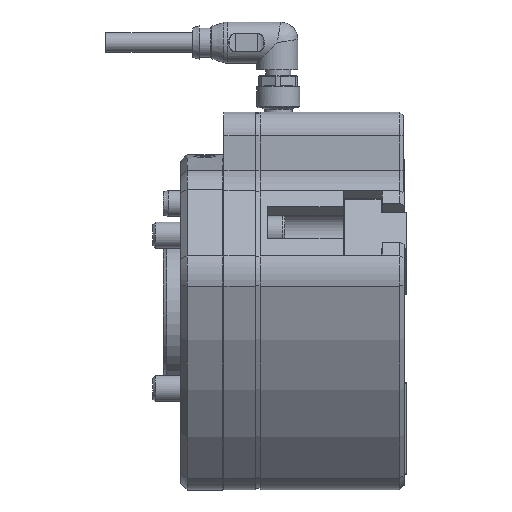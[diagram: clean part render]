
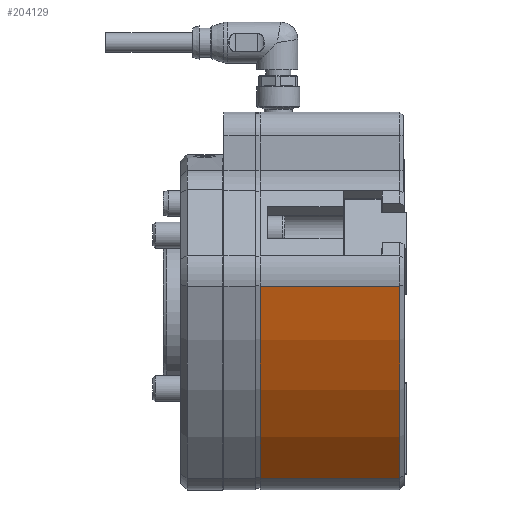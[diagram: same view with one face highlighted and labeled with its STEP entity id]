
A CAD part, top view. The second image highlights one B-rep face of the part: STEP entity #204129.
In plain terms, the highlighted cylindrical face has radius 90 mm (diameter 180 mm), a partial arc.
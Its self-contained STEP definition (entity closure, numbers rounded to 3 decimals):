
#203713=CARTESIAN_POINT('',(15.371,38.391,8.35));
#203714=VERTEX_POINT('',#203713);
#203722=CARTESIAN_POINT('',(40.933,-5.884,8.35));
#203723=VERTEX_POINT('',#203722);
#203724=CARTESIAN_POINT('',(-46.58,-26.893,8.35));
#203725=DIRECTION('',(0.0,0.0,1.0));
#203726=DIRECTION('',(-0.982,-0.191,0.0));
#203727=AXIS2_PLACEMENT_3D('',#203724,#203725,#203726);
#203728=CIRCLE('',#203727,90.0);
#203729=EDGE_CURVE('',#203723,#203714,#203728,.T.);
#204061=CARTESIAN_POINT('',(40.933,-5.884,40.5));
#204062=VERTEX_POINT('',#204061);
#204063=CARTESIAN_POINT('',(40.933,-5.884,8.35));
#204064=DIRECTION('',(0.0,0.0,1.0));
#204065=VECTOR('',#204064,32.15);
#204066=LINE('',#204063,#204065);
#204067=EDGE_CURVE('',#203723,#204062,#204066,.T.);
#204105=CARTESIAN_POINT('',(-46.58,-26.893,0.0));
#204106=DIRECTION('',(0.0,0.0,1.0));
#204107=DIRECTION('',(-0.982,-0.191,0.0));
#204108=AXIS2_PLACEMENT_3D('',#204105,#204106,#204107);
#204109=CYLINDRICAL_SURFACE('',#204108,90.0);
#204110=ORIENTED_EDGE('',*,*,#203729,.T.);
#204111=CARTESIAN_POINT('',(15.371,38.391,40.5));
#204112=VERTEX_POINT('',#204111);
#204113=CARTESIAN_POINT('',(15.371,38.391,40.5));
#204114=DIRECTION('',(0.0,0.0,-1.0));
#204115=VECTOR('',#204114,32.15);
#204116=LINE('',#204113,#204115);
#204117=EDGE_CURVE('',#204112,#203714,#204116,.T.);
#204118=ORIENTED_EDGE('',*,*,#204117,.F.);
#204119=CARTESIAN_POINT('',(-46.58,-26.893,40.5));
#204120=DIRECTION('',(0.0,0.0,1.0));
#204121=DIRECTION('',(0.982,0.191,0.0));
#204122=AXIS2_PLACEMENT_3D('',#204119,#204120,#204121);
#204123=CIRCLE('',#204122,90.0);
#204124=EDGE_CURVE('',#204062,#204112,#204123,.T.);
#204125=ORIENTED_EDGE('',*,*,#204124,.F.);
#204126=ORIENTED_EDGE('',*,*,#204067,.F.);
#204127=EDGE_LOOP('',(#204110,#204118,#204125,#204126));
#204128=FACE_OUTER_BOUND('',#204127,.T.);
#204129=ADVANCED_FACE('',(#204128),#204109,.T.);
